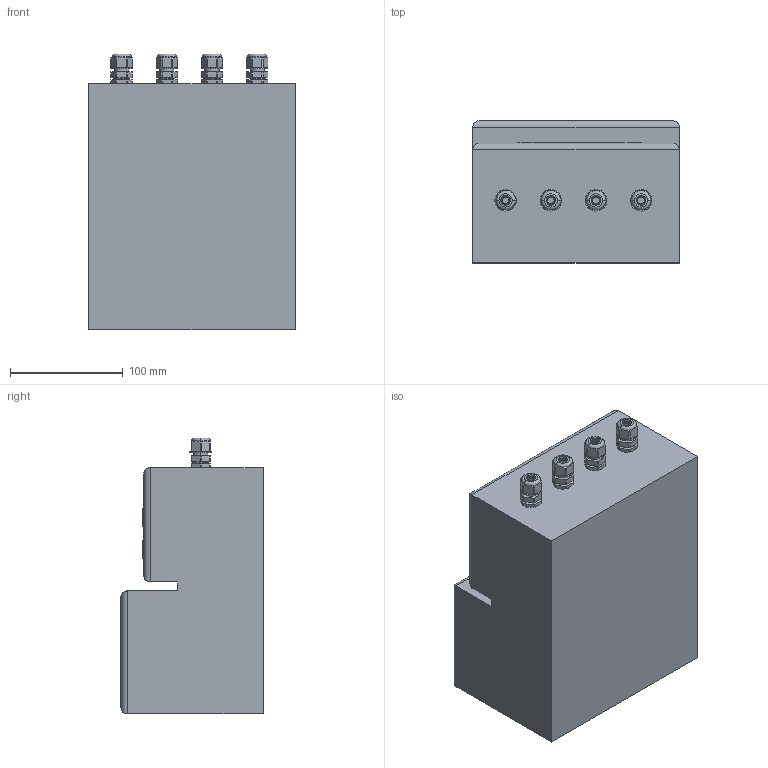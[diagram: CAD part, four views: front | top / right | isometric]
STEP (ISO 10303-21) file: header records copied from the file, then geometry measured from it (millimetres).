
FILE_DESCRIPTION((''),'2;1');
FILE_NAME('ASM0006_ASM','2026-01-23T14:31:33',('28740194'),(''),'CREO PARAMETRIC BY PTC INC, 2024063','CREO PARAMETRIC BY PTC INC, 2024063','');
FILE_SCHEMA(('CONFIG_CONTROL_DESIGN'));
Length unit declared in the file: millimetre
Products named in the file (9): KWPM500; EV214_27005336_DUMMY_MIR; EV214_27005336_02_MIR; EV214_27005336_03_MIR; EV214_27005336_04_MIR; EV214_27005336_06_MIR; EV214_27005336_07_MIR; ASM0003__ASM; ASM0006_ASM
Assembly tree (11 placements, depth 3):
  ASM0006_ASM
    KWPM500
    ASM0003__ASM  x4
      EV214_27005336_DUMMY_MIR
      EV214_27005336_02_MIR
      EV214_27005336_03_MIR
      EV214_27005336_04_MIR
      EV214_27005336_06_MIR
      EV214_27005336_07_MIR
Bounding box: 183 x 126 x 244.33 mm (x, y, z)
Volume: 4557641.5 mm3; surface area: 210784.4 mm2
Topology: 21 solids, 37 shells, 1299 faces, 3605 edges, 2406 vertices
Faces by surface type: plane 971, cylinder 264, cone 40, torus 24
Entity records: 19513 total; most frequent: CARTESIAN_POINT 3642, ORIENTED_EDGE 3318, DIRECTION 3169, EDGE_CURVE 1667, VECTOR 1371, LINE 1371, VERTEX_POINT 1110, AXIS2_PLACEMENT_3D 899
